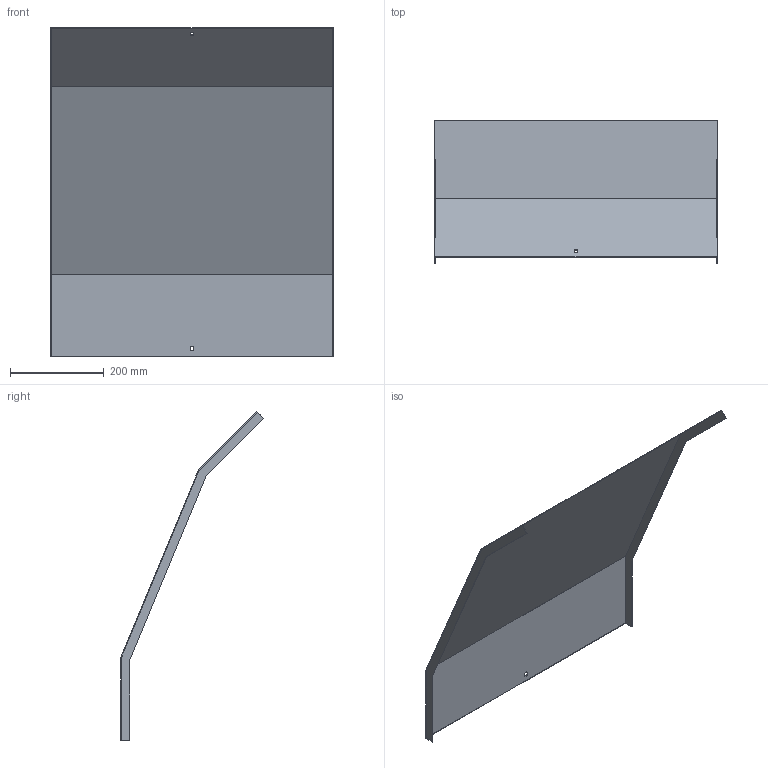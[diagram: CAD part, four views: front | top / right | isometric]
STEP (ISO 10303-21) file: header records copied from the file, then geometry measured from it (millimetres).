
FILE_DESCRIPTION (( 'STEP AP214' ), '1' );
FILE_NAME ('34N5J600.step', '2025-02-21T10:33:53', ( '' ), ( '' ), 'SwSTEP 2.0', 'SolidWorks 2023', '' );
FILE_SCHEMA (( 'AUTOMOTIVE_DESIGN' ));
Length unit declared in the file: millimetre
Products named in the file (1): 34N5J600
Bounding box: 603 x 304.65 x 701.34 mm (x, y, z)
Volume: 753286.5 mm3; surface area: 1008706.8 mm2
Topology: 1 solids, 1 shells, 26 faces, 72 edges, 48 vertices
Faces by surface type: plane 26
Entity records: 847 total; most frequent: CARTESIAN_POINT 147, ORIENTED_EDGE 144, DIRECTION 126, EDGE_CURVE 72, LINE 72, VECTOR 72, VERTEX_POINT 48, EDGE_LOOP 30
